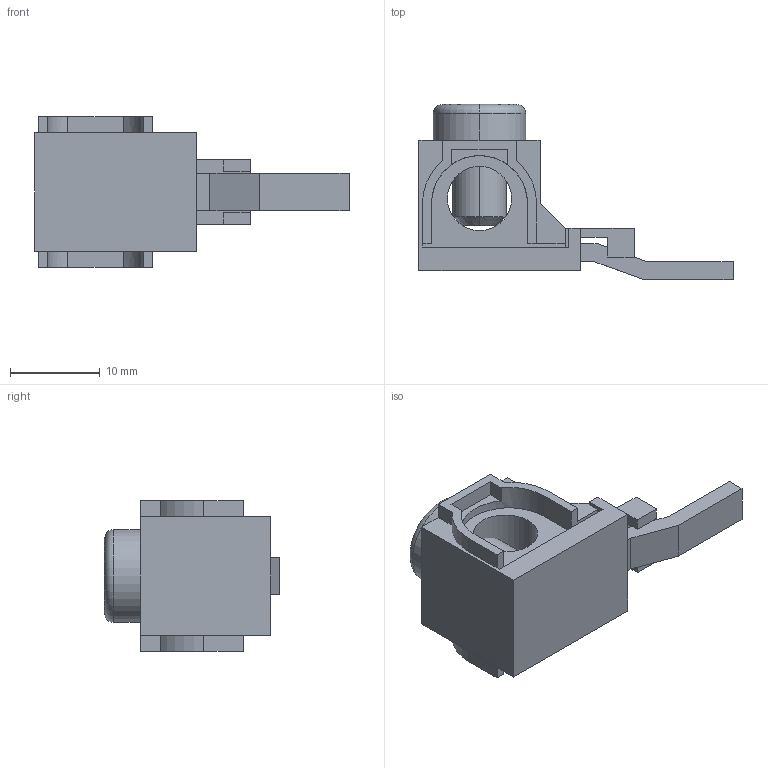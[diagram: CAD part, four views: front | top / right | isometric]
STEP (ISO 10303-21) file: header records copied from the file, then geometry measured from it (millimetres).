
FILE_DESCRIPTION (( 'STEP AP203' ), '1' );
FILE_NAME ('ck-s Çàæèì ïîä ïðîâîäíèê äëÿ ñîâì. ïîäêë. ñ øèíîé PIN ïîä áîêîâîå ñîåä.STEP', '2017-02-08T13:50:54', ( 'kuryshev' ), ( '' ), 'SwSTEP 2.0', 'SolidWorks 2010', '' );
FILE_SCHEMA (( 'CONFIG_CONTROL_DESIGN' ));
Length unit declared in the file: millimetre
Products named in the file (1): ck-s Çàæèì ïîä ïðîâîäíèê äëÿ ñîâì. ïîäêë. ñ øèíîé PIN ïîä áîêîâîå ñîåä
Bounding box: 35 x 19.5 x 16.8 mm (x, y, z)
Volume: 3006.3 mm3; surface area: 2578.2 mm2
Topology: 2 solids, 2 shells, 103 faces, 277 edges, 182 vertices
Faces by surface type: plane 85, cylinder 14, cone 2, torus 2
Entity records: 3264 total; most frequent: CARTESIAN_POINT 563, ORIENTED_EDGE 554, DIRECTION 523, EDGE_CURVE 277, LINE 239, VECTOR 239, VERTEX_POINT 182, AXIS2_PLACEMENT_3D 142
